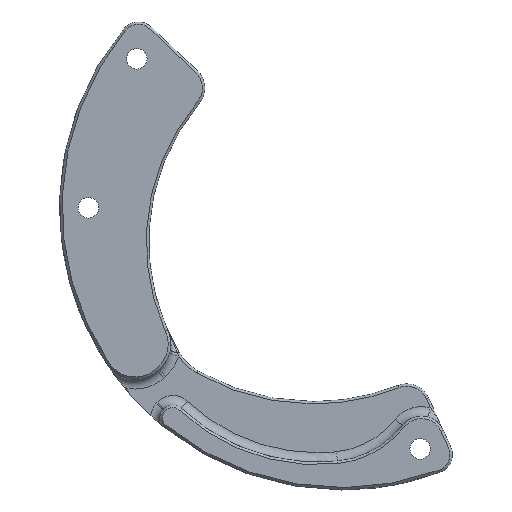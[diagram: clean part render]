
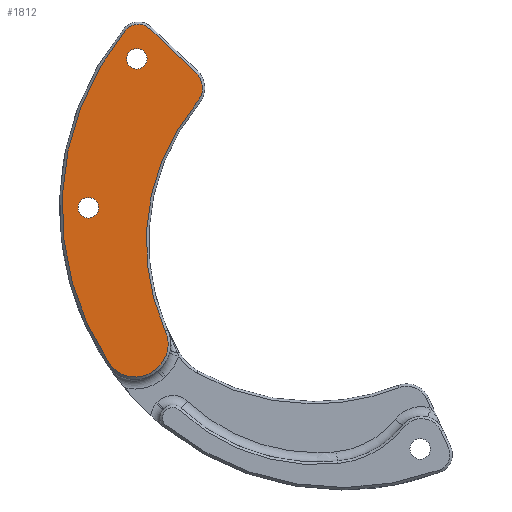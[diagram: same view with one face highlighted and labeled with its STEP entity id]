
A CAD part, left-side view. The second image highlights one B-rep face of the part: STEP entity #1812.
In plain terms, the highlighted planar face has unit normal (-1, 0, 0).
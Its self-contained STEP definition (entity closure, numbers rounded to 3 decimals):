
#322=CARTESIAN_POINT('',(54.5,42.878,-32.847));
#323=DIRECTION('',(-1.,0.,0.));
#324=DIRECTION('',(0.,0.,1.));
#325=AXIS2_PLACEMENT_3D('',#322,#323,#324);
#327=CARTESIAN_POINT('',(54.5,42.878,-32.847));
#328=DIRECTION('',(-1.,0.,0.));
#329=DIRECTION('',(0.,0.,-1.));
#330=AXIS2_PLACEMENT_3D('',#327,#328,#329);
#332=CARTESIAN_POINT('',(54.5,53.,-64.));
#333=DIRECTION('',(-1.,0.,0.));
#334=DIRECTION('',(0.,0.,1.));
#335=AXIS2_PLACEMENT_3D('',#332,#333,#334);
#337=CARTESIAN_POINT('',(54.5,53.,-64.));
#338=DIRECTION('',(-1.,0.,0.));
#339=DIRECTION('',(0.,0.,-1.));
#340=AXIS2_PLACEMENT_3D('',#337,#338,#339);
#342=CARTESIAN_POINT('',(54.5,-4.601,-71.157));
#343=DIRECTION('',(1.,0.,0.));
#344=DIRECTION('',(0.,0.912,-0.411));
#345=AXIS2_PLACEMENT_3D('',#342,#343,#344);
#347=CARTESIAN_POINT('',(54.5,42.815,-92.504));
#348=DIRECTION('',(-1.,0.,0.));
#349=DIRECTION('',(0.,-0.662,-0.749));
#350=AXIS2_PLACEMENT_3D('',#347,#348,#349);
#352=DIRECTION('',(0.,-0.749,0.662));
#353=VECTOR('',#352,0.57);
#354=CARTESIAN_POINT('',(54.5,38.937,-97.751));
#355=LINE('',#354,#353);
#356=CARTESIAN_POINT('',(54.5,43.242,-92.881));
#357=DIRECTION('',(-1.,0.,0.));
#358=DIRECTION('',(0.,0.832,-0.555));
#359=AXIS2_PLACEMENT_3D('',#356,#357,#358);
#361=CARTESIAN_POINT('',(54.5,0.,-64.));
#362=DIRECTION('',(-1.,0.,0.));
#363=DIRECTION('',(0.,0.774,0.634));
#364=AXIS2_PLACEMENT_3D('',#361,#362,#363);
#366=CARTESIAN_POINT('',(54.5,42.543,-29.142));
#367=DIRECTION('',(-1.,0.,0.));
#368=DIRECTION('',(0.,-0.688,0.725));
#369=AXIS2_PLACEMENT_3D('',#366,#367,#368);
#371=DIRECTION('',(0.,0.725,0.688));
#372=VECTOR('',#371,13.207);
#373=CARTESIAN_POINT('',(54.5,30.554,-35.694));
#374=LINE('',#373,#372);
#375=CARTESIAN_POINT('',(54.5,33.652,-38.958));
#376=DIRECTION('',(-1.,0.,0.));
#377=DIRECTION('',(0.,-0.765,-0.644));
#378=AXIS2_PLACEMENT_3D('',#375,#376,#377);
#1183=CARTESIAN_POINT('',(54.5,42.878,-30.697));
#1184=CARTESIAN_POINT('',(54.5,42.878,-34.997));
#1185=VERTEX_POINT('',#1183);
#1186=VERTEX_POINT('',#1184);
#1187=CARTESIAN_POINT('',(54.5,53.,-61.85));
#1188=CARTESIAN_POINT('',(54.5,53.,-66.15));
#1189=VERTEX_POINT('',#1187);
#1190=VERTEX_POINT('',#1188);
#1337=CARTESIAN_POINT('',(54.5,36.888,-89.836));
#1338=CARTESIAN_POINT('',(54.5,30.209,-41.856));
#1339=VERTEX_POINT('',#1337);
#1340=VERTEX_POINT('',#1338);
#1345=CARTESIAN_POINT('',(54.5,30.554,-35.694));
#1346=VERTEX_POINT('',#1345);
#1349=CARTESIAN_POINT('',(54.5,40.134,-26.603));
#1350=VERTEX_POINT('',#1349);
#1353=CARTESIAN_POINT('',(54.5,45.251,-26.924));
#1354=VERTEX_POINT('',#1353);
#1357=CARTESIAN_POINT('',(54.5,48.647,-96.492));
#1358=VERTEX_POINT('',#1357);
#1361=CARTESIAN_POINT('',(54.5,38.937,-97.751));
#1362=VERTEX_POINT('',#1361);
#1365=CARTESIAN_POINT('',(54.5,38.51,-97.374));
#1366=VERTEX_POINT('',#1365);
#1778=CARTESIAN_POINT('',(54.5,0.,-64.));
#1779=DIRECTION('',(1.,0.,0.));
#1780=DIRECTION('',(0.,1.,0.));
#1781=AXIS2_PLACEMENT_3D('',#1778,#1779,#1780);
#1782=PLANE('',#1781);
#1784=ORIENTED_EDGE('',*,*,#1783,.F.);
#1786=ORIENTED_EDGE('',*,*,#1785,.F.);
#1788=ORIENTED_EDGE('',*,*,#1787,.F.);
#1790=ORIENTED_EDGE('',*,*,#1789,.F.);
#1791=ORIENTED_EDGE('',*,*,#1768,.F.);
#1793=ORIENTED_EDGE('',*,*,#1792,.F.);
#1795=ORIENTED_EDGE('',*,*,#1794,.F.);
#1797=ORIENTED_EDGE('',*,*,#1796,.F.);
#1798=EDGE_LOOP('',(#1784,#1786,#1788,#1790,#1791,#1793,#1795,#1797));
#1799=FACE_OUTER_BOUND('',#1798,.F.);
#1801=ORIENTED_EDGE('',*,*,#1800,.T.);
#1803=ORIENTED_EDGE('',*,*,#1802,.T.);
#1804=EDGE_LOOP('',(#1801,#1803));
#1805=FACE_BOUND('',#1804,.F.);
#1807=ORIENTED_EDGE('',*,*,#1806,.T.);
#1809=ORIENTED_EDGE('',*,*,#1808,.T.);
#1810=EDGE_LOOP('',(#1807,#1809));
#1811=FACE_BOUND('',#1810,.F.);
#1812=ADVANCED_FACE('',(#1799,#1805,#1811),#1782,.F.);
#326=CIRCLE('',#325,2.15);
#331=CIRCLE('',#330,2.15);
#336=CIRCLE('',#335,2.15);
#341=CIRCLE('',#340,2.15);
#346=CIRCLE('',#345,45.5);
#351=CIRCLE('',#350,6.5);
#360=CIRCLE('',#359,6.5);
#365=CIRCLE('',#364,58.5);
#370=CIRCLE('',#369,3.5);
#379=CIRCLE('',#378,4.5);
#1768=EDGE_CURVE('',#1354,#1358,#365,.T.);
#1783=EDGE_CURVE('',#1339,#1340,#346,.T.);
#1785=EDGE_CURVE('',#1366,#1339,#351,.T.);
#1787=EDGE_CURVE('',#1362,#1366,#355,.T.);
#1789=EDGE_CURVE('',#1358,#1362,#360,.T.);
#1792=EDGE_CURVE('',#1350,#1354,#370,.T.);
#1794=EDGE_CURVE('',#1346,#1350,#374,.T.);
#1796=EDGE_CURVE('',#1340,#1346,#379,.T.);
#1800=EDGE_CURVE('',#1189,#1190,#336,.T.);
#1802=EDGE_CURVE('',#1190,#1189,#341,.T.);
#1806=EDGE_CURVE('',#1185,#1186,#326,.T.);
#1808=EDGE_CURVE('',#1186,#1185,#331,.T.);
